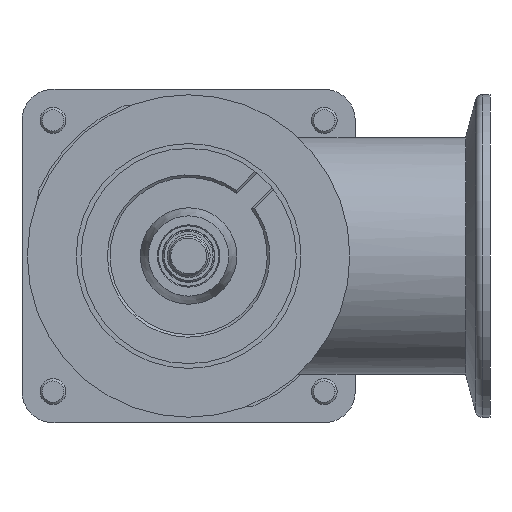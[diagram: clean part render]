
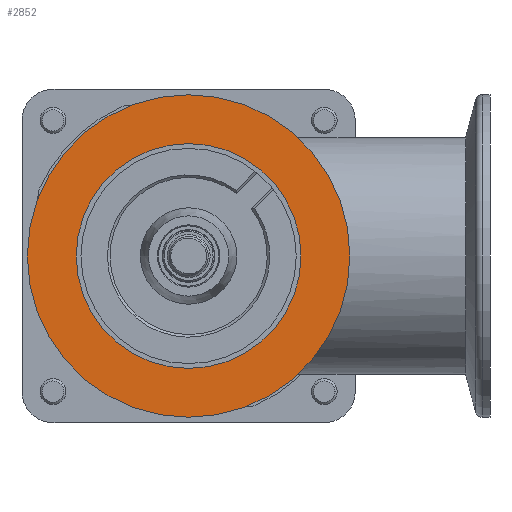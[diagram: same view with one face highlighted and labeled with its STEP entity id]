
A CAD part, front view. The second image highlights one B-rep face of the part: STEP entity #2852.
In plain terms, the highlighted planar face has unit normal (0, -1, 0) as drawn and (-1, 0, 0) by its records, which use the part's own axes.
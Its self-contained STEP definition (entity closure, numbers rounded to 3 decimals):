
#2004=FACE_BOUND('',#4156,.T.);
#2005=FACE_BOUND('',#4157,.T.);
#2333=CIRCLE('',#10446,26.1);
#2334=CIRCLE('',#10448,37.452);
#2852=ADVANCED_FACE('',(#2004,#2005),#3197,.T.);
#3197=PLANE('',#10449);
#4156=EDGE_LOOP('',(#6236));
#4157=EDGE_LOOP('',(#6237));
#6236=ORIENTED_EDGE('',*,*,#8332,.T.);
#6237=ORIENTED_EDGE('',*,*,#8331,.F.);
#7239=VERTEX_POINT('',#16644);
#7240=VERTEX_POINT('',#16647);
#8331=EDGE_CURVE('',#7239,#7239,#2333,.T.);
#8332=EDGE_CURVE('',#7240,#7240,#2334,.T.);
#10446=AXIS2_PLACEMENT_3D('',#16643,#12526,#12527);
#10448=AXIS2_PLACEMENT_3D('',#16646,#12530,#12531);
#10449=AXIS2_PLACEMENT_3D('',#16648,#12532,#12533);
#12526=DIRECTION('',(-1.,0.,0.));
#12527=DIRECTION('',(0.,0.,1.));
#12530=DIRECTION('',(-1.,0.,0.));
#12531=DIRECTION('',(0.,0.,1.));
#12532=DIRECTION('',(-1.,0.,0.));
#12533=DIRECTION('',(0.,0.,1.));
#16643=CARTESIAN_POINT('',(0.,0.,0.));
#16644=CARTESIAN_POINT('',(0.,0.,26.1));
#16646=CARTESIAN_POINT('',(0.,0.,0.));
#16647=CARTESIAN_POINT('',(0.,0.,37.452));
#16648=CARTESIAN_POINT('',(0.,26.1,0.));
